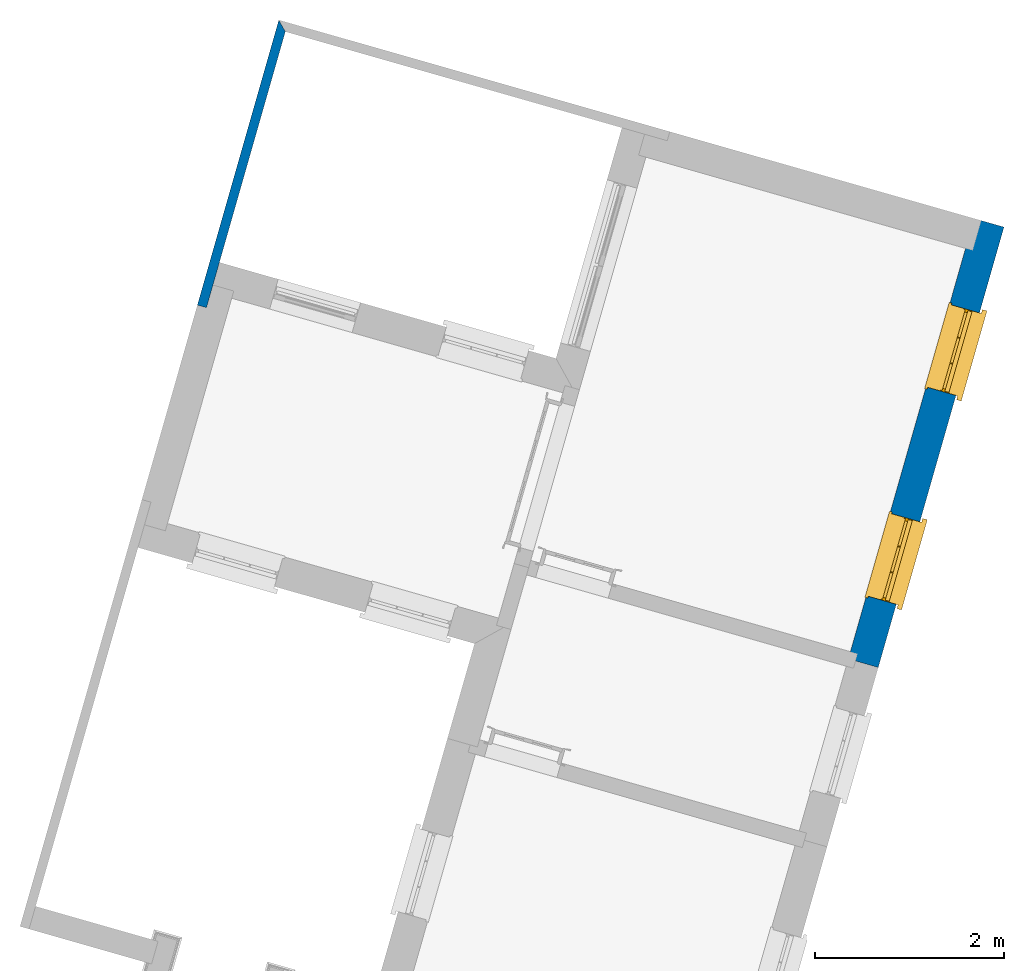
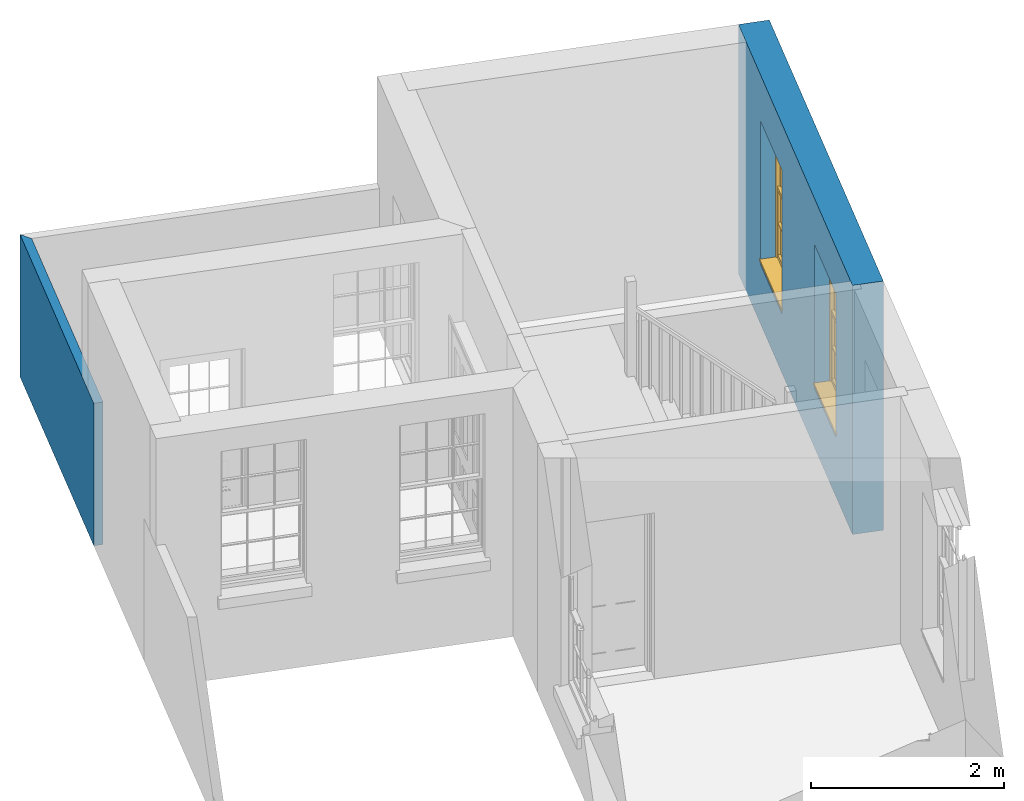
# One storey, part 6 of 7: 2 walls, 2 windows, 2 openings.
"""IFC4 building model written with IfcOpenShell, lengths in metres."""

from ifc_helpers import new_model, si_unit, frame, origin, origin_with_axes, place, context, subcontext, project, spatial, polyline, outline, extrude, faceted_brep, source, transform, mapped, material, layer, layer_set, layer_usage, type_object, type_shapes, element, fill, save


model = new_model("IFC4")

# Units and contexts
model_context = context("Model", 3, world=origin_with_axes())
body_context = subcontext(model_context, "Body", "Model", "MODEL_VIEW")
ifc_project = project(units=[si_unit("PLANEANGLEUNIT", "RADIAN"), si_unit("MASSUNIT", "GRAM", prefix="KILO"), si_unit("FORCEUNIT", "NEWTON", prefix="KILO"), si_unit("LENGTHUNIT", "METRE"), si_unit("AREAUNIT", "SQUARE_METRE"), si_unit("VOLUMEUNIT", "CUBIC_METRE")], contexts=[model_context, model_context])

# Sites, building, storey
site_1_placement = place(None, origin_with_axes())
site_1 = spatial("IfcSite", under=ifc_project, at=site_1_placement, Name="Tamar")
site_2_placement = place(site_1_placement, origin_with_axes())
site_2 = spatial("IfcSite", under=site_1, at=site_2_placement, Name="Site plot-20", CompositionType="ELEMENT")
building_placement = place(None, origin_with_axes())
building = spatial("IfcBuilding", under=site_2, at=building_placement, Name="Building plot-20", CompositionType="ELEMENT")
storey_placement = place(None, frame((0.0, 0.0, 26.0), z_axis=(0.0, 0.0, 1.0), x_axis=(1.0, 0.0, 0.0)))
storey = spatial("IfcBuildingStorey", under=building, at=storey_placement, Name="plot-20 0", CompositionType="ELEMENT", Elevation=26.0)

# Wall, openings, windows
ifc_material_1 = material(Name="Masonry")
ifc_layer_1 = layer(ifc_material_1, 0.33, ventilated=False)
ifc_layer_set_1 = layer_set([ifc_layer_1], Name="exterior_0.08_0.25")
ifc_layer_usage_1 = layer_usage(ifc_layer_set_1, "AXIS2", "POSITIVE", -0.25)
wall_type_1 = type_object("IfcWallType", Name="exterior_0.08_0.25", PredefinedType="SOLIDWALL", material=ifc_layer_set_1)
wall_1_placement = place(storey_placement, frame((281.132347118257, 288.440429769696, 0.0), z_axis=(0.0, 0.0, 1.0), x_axis=(0.274568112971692, 0.961567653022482, 0.0)))
wall_1 = element("IfcWall", 1, at=wall_1_placement, inside=storey, type_object=wall_type_1, material=ifc_layer_usage_1, Name="exterior", context=body_context, shape_type="SweptSolid", body=[
    extrude(outline(polyline([(-5.16870854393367e-14, 0.0799999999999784), (1.55668576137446e-13, -0.250000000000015), (4.85875470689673, -0.250000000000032), (4.85875470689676, 0.0799999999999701), (-5.16870854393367e-14, 0.0799999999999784)])), origin_with_axes(), (0.0, 0.0, 1.0), 3.15),
])
opening_1_placement = place(wall_1_placement, frame((0.697188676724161, 0.0, 0.75)))
opening_1 = element("IfcOpeningElement", 2, at=opening_1_placement, cuts=wall_1, Name="My Opening", ObjectType="Opening", context=body_context, shape_type="SweptSolid", body=[
    extrude(outline(polyline([(0.0, -0.269999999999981), (0.909999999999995, -0.270000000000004), (0.90999999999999, 1.09999999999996), (-4.88498130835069e-15, 1.09999999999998), (0.0, -0.269999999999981)])), origin_with_axes(), (0.0, 0.0, 1.0), 1.82),
])
opening_2_placement = place(wall_1_placement, frame((3.00156603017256, 0.0, 0.75)))
opening_2 = element("IfcOpeningElement", 3, at=opening_2_placement, cuts=wall_1, Name="My Opening", ObjectType="Opening", context=body_context, shape_type="SweptSolid", body=[
    extrude(outline(polyline([(0.0, -0.269999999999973), (0.909999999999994, -0.269999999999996), (0.90999999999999, 1.09999999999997), (-4.88498130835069e-15, 1.09999999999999), (0.0, -0.269999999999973)])), origin_with_axes(), (0.0, 0.0, 1.0), 1.82),
])
window_type = type_object("IfcWindowType", Name="sash_big", PartitioningType="DOUBLE_PANEL_HORIZONTAL", PredefinedType="NOTDEFINED")
shared_shape = source(origin(), body_context, "Body", "Brep", [
    faceted_brep([(0.033125, 0.145, 0.975209), (0.01, 0.145, 0.975209), (0.033125, 0.145, 1.376042), (0.876875, 0.145, 0.975209), (0.876875, 0.145, 1.376042), (0.9, 0.145, 0.975209), (0.876875, 0.145, 1.386042), (0.876875, 0.145, 1.786875), (0.9, 0.145, 1.81), (0.033125, 0.145, 1.786875), (0.033125, 0.145, 1.386042), (0.01, 0.145, 1.81), (0.876875, 0.115, 1.376042), (0.876875, 0.115, 0.975209), (0.9, 0.115, 0.937083), (0.033125, 0.115, 1.786875), (0.01, 0.115, 1.81), (0.033125, 0.115, 1.386042), (0.01, 0.115, 0.937083), (0.033125, 0.115, 0.975209), (0.033125, 0.115, 1.376042), (0.876875, 0.115, 1.786875), (0.876875, 0.115, 1.386042), (0.9, 0.115, 1.81), (0.033125, 0.145, 0.937083), (0.01, 0.145, 0.937083), (0.033125, 0.145, 0.53625), (0.876875, 0.145, 0.937083), (0.876875, 0.145, 0.53625), (0.9, 0.145, 0.937083), (0.876875, 0.145, 0.52625), (0.876875, 0.145, 0.125417), (0.9, 0.145, 0.077167), (0.033125, 0.145, 0.125417), (0.033125, 0.145, 0.52625), (0.01, 0.145, 0.077167), (-0.0425, 0.0, 0.01), (-0.0425, -0.05, 0.001667), (0.0, 0.0, 0.01), (0.9525, 0.0, 0.01), (0.91, 0.0, 0.01), (0.9525, -0.05, 0.001667), (-0.02, 0.33, 0.077167), (0.0, 0.33, 0.077167), (-0.02, 0.36, 0.077167), (0.0, 0.19, 0.077167), (0.01, 0.19, 0.077167), (0.91, 0.19, 0.077167), (0.91, 0.33, 0.077167), (0.9, 0.19, 0.077167), (0.93, 0.33, 0.077167), (0.93, 0.36, 0.077167), (0.01, 0.175, 0.975209), (0.9, 0.175, 0.975209), (0.876875, 0.175, 0.125417), (0.876875, 0.175, 0.52625), (0.9, 0.175, 0.077167), (0.876875, 0.175, 0.53625), (0.876875, 0.175, 0.937083), (0.033125, 0.175, 0.125417), (0.01, 0.175, 0.077167), (0.033125, 0.175, 0.52625), (0.033125, 0.175, 0.937083), (0.033125, 0.175, 0.53625), (-0.02, 0.33, 0.052167), (-0.02, 0.36, 0.052167), (0.93, 0.36, 0.052167), (0.93, 0.33, 0.052167), (0.91, 0.33, 0.052167), (0.0, 0.33, 0.052167), (0.91, 0.1, 0.026667), (0.0, 0.1, 0.026667), (-0.0425, -0.05, -0.123333), (0.9525, -0.05, -0.123333), (-0.0425, 0.0, -0.123333), (0.9525, 0.0, -0.123333), (0.01, 0.19, 1.81), (0.9, 0.19, 1.81), (0.0, 0.19, 1.82), (0.91, 0.19, 1.82), (0.01, 0.1, 0.077167), (0.9, 0.1, 0.077167), (0.592292, 0.145, 0.125417), (0.592292, 0.175, 0.125417), (0.317708, 0.175, 0.125417), (0.317708, 0.145, 0.125417), (0.592292, 0.145, 0.53625), (0.317708, 0.145, 0.53625), (0.317708, 0.145, 0.52625), (0.592292, 0.145, 0.52625), (0.592292, 0.175, 0.53625), (0.317708, 0.175, 0.53625), (0.592292, 0.115, 1.386042), (0.592292, 0.145, 1.386042), (0.317708, 0.145, 1.386042), (0.317708, 0.115, 1.386042), (0.317708, 0.115, 1.376042), (0.592292, 0.115, 1.376042), (0.317708, 0.145, 1.376042), (0.592292, 0.145, 1.376042), (0.602292, 0.115, 1.376042), (0.592292, 0.115, 0.975209), (0.602292, 0.115, 0.975209), (0.602292, 0.145, 0.975209), (0.592292, 0.145, 0.975209), (0.602292, 0.145, 1.376042), (0.602292, 0.175, 0.53625), (0.602292, 0.145, 0.53625), (0.317708, 0.175, 0.52625), (0.307708, 0.175, 0.125417), (0.307708, 0.175, 0.52625), (0.602292, 0.175, 0.52625), (0.602292, 0.175, 0.125417), (0.592292, 0.175, 0.52625), (0.307708, 0.175, 0.53625), (0.317708, 0.175, 0.937083), (0.307708, 0.175, 0.937083), (0.602292, 0.175, 0.937083), (0.592292, 0.175, 0.937083), (0.307708, 0.145, 0.52625), (0.307708, 0.145, 0.125417), (0.307708, 0.145, 0.53625), (0.307708, 0.145, 0.937083), (0.592292, 0.145, 0.937083), (0.317708, 0.145, 0.937083), (0.602292, 0.145, 0.937083), (0.602292, 0.145, 0.52625), (0.602292, 0.145, 0.125417), (0.307708, 0.115, 1.386042), (0.307708, 0.115, 1.376042), (0.307708, 0.115, 0.975209), (0.317708, 0.115, 0.975209), (0.317708, 0.115, 1.786875), (0.307708, 0.115, 1.786875), (0.602292, 0.115, 1.786875), (0.592292, 0.115, 1.786875), (0.602292, 0.115, 1.386042), (0.602292, 0.145, 1.386042), (0.307708, 0.145, 1.386042), (0.307708, 0.145, 1.786875), (0.317708, 0.145, 1.786875), (0.592292, 0.145, 1.786875), (0.602292, 0.145, 1.786875), (0.307708, 0.145, 1.376042), (0.317708, 0.145, 0.975209), (0.307708, 0.145, 0.975209), (0.91, 0.1, 1.82), (0.9, 0.1, 1.81), (0.01, 0.1, 1.81), (0.0, 0.1, 1.82), (0.91, 0.0, 0.0), (0.0, 0.0, 0.0), (0.91, 0.33, 0.0), (0.0, 0.33, 0.0)], [[[0, 1, 2]], [[3, 4, 5]], [[6, 7, 8]], [[9, 10, 11]], [[12, 13, 14]], [[15, 16, 17]], [[18, 19, 20]], [[21, 22, 23]], [[24, 25, 26]], [[27, 28, 29]], [[30, 31, 32]], [[33, 34, 35]], [[14, 27, 29]], [[25, 24, 18]], [[36, 37, 38]], [[39, 40, 41]], [[42, 43, 44]], [[45, 46, 43]], [[47, 48, 49]], [[50, 51, 48]], [[1, 0, 52]], [[5, 53, 3]], [[54, 55, 56]], [[57, 58, 53]], [[59, 60, 61]], [[62, 63, 52]], [[48, 43, 46, 49]], [[51, 44, 43, 48]], [[64, 42, 44, 65]], [[65, 44, 51, 66]], [[66, 51, 50, 67]], [[65, 66, 68, 69]], [[60, 56, 49, 46]], [[70, 71, 38, 40]], [[37, 41, 40, 38]], [[37, 72, 73, 41]], [[74, 75, 73, 72]], [[8, 11, 76, 77]], [[76, 78, 79, 77]], [[32, 35, 80, 81]], [[81, 80, 71, 70]], [[82, 83, 84, 85]], [[86, 87, 88, 89]], [[86, 90, 91, 87]], [[92, 93, 94, 95]], [[92, 95, 96, 97]], [[96, 98, 99, 97]], [[100, 97, 101, 102]], [[103, 104, 99, 105]], [[97, 99, 104, 101]], [[102, 103, 105, 100]], [[28, 57, 106, 107]], [[108, 84, 109, 110]], [[111, 112, 83, 113]], [[114, 110, 61, 63]], [[90, 113, 108, 91]], [[115, 91, 114, 116]], [[117, 106, 90, 118]], [[111, 106, 57, 55]], [[119, 110, 109, 120]], [[34, 61, 110, 119]], [[89, 113, 83, 82]], [[88, 108, 113, 89]], [[85, 84, 108, 88]], [[121, 114, 63, 26]], [[122, 116, 114, 121]], [[123, 118, 90, 86]], [[87, 91, 115, 124]], [[107, 106, 117, 125]], [[126, 111, 55, 30]], [[127, 112, 111, 126]], [[126, 30, 28, 107]], [[88, 119, 120, 85]], [[126, 89, 82, 127]], [[125, 123, 86, 107]], [[121, 26, 34, 119]], [[124, 122, 121, 87]], [[128, 17, 20, 129]], [[96, 129, 130, 131]], [[132, 133, 128, 95]], [[134, 135, 92, 136]], [[100, 12, 22, 136]], [[137, 6, 4, 105]], [[94, 138, 139, 140]], [[137, 93, 141, 142]], [[99, 98, 94, 93]], [[143, 2, 10, 138]], [[144, 145, 143, 98]], [[129, 143, 145, 130]], [[20, 2, 143, 129]], [[131, 144, 98, 96]], [[128, 138, 10, 17]], [[133, 139, 138, 128]], [[135, 141, 93, 92]], [[95, 94, 140, 132]], [[22, 6, 137, 136]], [[136, 137, 142, 134]], [[100, 105, 4, 12]], [[107, 86, 89, 126]], [[106, 111, 113, 90]], [[91, 108, 110, 114]], [[87, 121, 119, 88]], [[97, 100, 136, 92]], [[129, 96, 95, 128]], [[98, 143, 138, 94]], [[105, 99, 93, 137]], [[131, 101, 104, 144]], [[124, 115, 118, 123]], [[132, 140, 141, 135]], [[120, 109, 59, 33]], [[15, 9, 139, 133]], [[134, 142, 7, 21]], [[31, 54, 112, 127]], [[36, 74, 72, 37]], [[39, 41, 73, 75]], [[18, 14, 101, 131]], [[23, 16, 132, 135]], [[83, 56, 60, 84]], [[52, 53, 118, 115]], [[53, 52, 144, 104]], [[11, 8, 141, 140]], [[14, 18, 124, 123]], [[2, 1, 11, 10]], [[8, 5, 4, 6]], [[57, 53, 56, 55]], [[60, 52, 63, 61]], [[26, 25, 35, 34]], [[32, 29, 28, 30]], [[14, 23, 22, 12]], [[18, 20, 17, 16]], [[19, 0, 2, 20]], [[17, 10, 9, 15]], [[12, 4, 3, 13]], [[21, 7, 6, 22]], [[27, 58, 57, 28]], [[30, 55, 54, 31]], [[33, 59, 61, 34]], [[26, 63, 62, 24]], [[5, 8, 77, 53]], [[76, 11, 1, 52]], [[46, 45, 78, 76]], [[49, 77, 79, 47]], [[70, 146, 147, 81]], [[71, 80, 148, 149]], [[19, 130, 145, 0]], [[102, 13, 3, 103]], [[116, 122, 24, 62]], [[29, 32, 81, 14]], [[80, 35, 25, 18]], [[60, 46, 76, 52]], [[77, 49, 56, 53]], [[23, 14, 81, 147]], [[16, 148, 80, 18]], [[35, 85, 120]], [[120, 33, 35]], [[127, 82, 32]], [[32, 31, 127]], [[32, 82, 85, 35]], [[102, 101, 14]], [[14, 13, 102]], [[18, 131, 130]], [[130, 19, 18]], [[134, 21, 23]], [[23, 135, 134]], [[16, 15, 133]], [[133, 132, 16]], [[11, 140, 139]], [[139, 9, 11]], [[142, 141, 8]], [[8, 7, 142]], [[23, 147, 148, 16]], [[146, 149, 148, 147]], [[52, 115, 116]], [[116, 62, 52]], [[118, 53, 117]], [[58, 117, 53]], [[27, 125, 117, 58]], [[56, 83, 112]], [[112, 54, 56]], [[109, 84, 60]], [[60, 59, 109]], [[125, 27, 14]], [[14, 123, 125]], [[122, 124, 18]], [[18, 24, 122]], [[145, 144, 52]], [[52, 0, 145]], [[103, 3, 53]], [[53, 104, 103]], [[79, 78, 149, 146]], [[78, 45, 71, 149]], [[146, 70, 47, 79]], [[150, 75, 74, 151]], [[68, 66, 67]], [[48, 68, 67, 50]], [[69, 64, 65]], [[42, 64, 69, 43]], [[69, 68, 152, 153]], [[70, 68, 48, 47]], [[150, 152, 68, 70]], [[43, 69, 71, 45]], [[69, 153, 151, 71]], [[152, 150, 151, 153]], [[38, 151, 74, 36]], [[71, 151, 38]], [[39, 75, 150, 40]], [[40, 150, 70]]]),
])
type_shapes(window_type, [shared_shape])
window_1_placement = place(storey_placement, frame((281.583396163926, 289.036690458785, 0.75), z_axis=(0.0, 0.0, 1.0), x_axis=(0.24985698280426, 0.875026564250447, 0.0)))
window_1 = element("IfcWindow", 4, at=window_1_placement, inside=storey, type_object=window_type, Name="living street window", OverallHeight=1.82, OverallWidth=0.91, context=body_context, shape_type="MappedRepresentation", body=[
    mapped(shared_shape, transform((0.0, 0.0, 0.0), scale=1.0)),
])
fill(opening_1, window_1)
window_2_placement = place(storey_placement, frame((282.216104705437, 291.252505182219, 0.75), z_axis=(0.0, 0.0, 1.0), x_axis=(0.24985698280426, 0.875026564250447, 0.0)))
window_2 = element("IfcWindow", 5, at=window_2_placement, inside=storey, type_object=window_type, Name="living street window", OverallHeight=1.82, OverallWidth=0.91, context=body_context, shape_type="MappedRepresentation", body=[
    mapped(shared_shape, transform((0.0, 0.0, 0.0), scale=1.0)),
])
fill(opening_2, window_2)

# Wall
ifc_material_2 = material(Name="Masonry")
ifc_layer_2 = layer(ifc_material_2, 0.1, ventilated=False)
ifc_layer_set_2 = layer_set([ifc_layer_2], Name="fence_-0.15_0.25")
ifc_layer_usage_2 = layer_usage(ifc_layer_set_2, "AXIS2", "POSITIVE", -0.25)
wall_type_2 = type_object("IfcWallType", Name="fence_-0.15_0.25", PredefinedType="SOLIDWALL", material=ifc_layer_set_2)
wall_2_placement = place(storey_placement, frame((275.18600680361, 294.93132006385, 0.0), z_axis=(0.0, 0.0, 1.0), x_axis=(-0.274568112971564, -0.961567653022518, 0.0)))
element("IfcWall", 6, at=wall_2_placement, inside=storey, type_object=wall_type_2, material=ifc_layer_usage_2, Name="fence", context=body_context, shape_type="SweptSolid", body=[
    extrude(outline(polyline([(-0.150000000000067, -0.150000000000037), (-0.250000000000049, -0.250000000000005), (2.89537764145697, -0.249999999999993), (2.89537764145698, -0.150000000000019), (-0.150000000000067, -0.150000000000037)])), origin_with_axes(), (0.0, 0.0, 1.0), 1.8),
])

save(model, "model.ifc")
